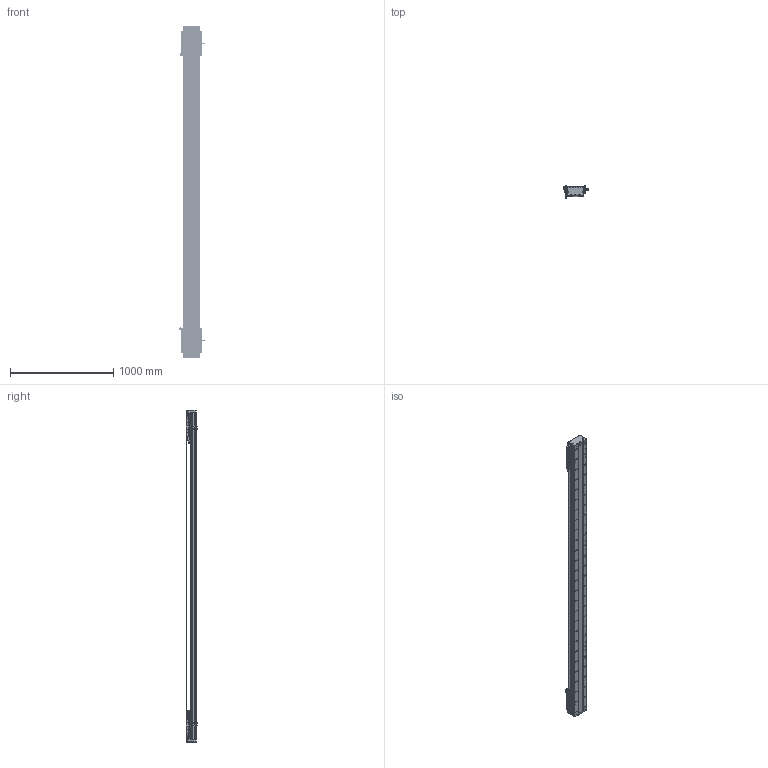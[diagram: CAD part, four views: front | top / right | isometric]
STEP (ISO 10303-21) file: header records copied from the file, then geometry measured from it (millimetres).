
FILE_DESCRIPTION (( 'STEP AP203' ), '1' );
FILE_NAME ('DA-C165-2-C3-T2600-C010-0.2 直线电机.STEP', '2023-06-13T09:15:22', ( '微软用户' ), ( '微软中国' ), 'SwSTEP 2.0', 'SolidWorks 2019', '' );
FILE_SCHEMA (( 'CONFIG_CONTROL_DESIGN' ));
Length unit declared in the file: millimetre
Products named in the file (22): 复件 DA165-GDLK-00 钢带拉块^复件 CU165钢带组件_DA-C165-C3-T-C010-0.2-N 直线电机; 复件 XD-U-02L 磁栅尺^DA-C165-C3-T-C010-0.2-N 直线电机_T; 葩璃 PM-Y45^DA-C165-C3-T-C010-0.2-N 眻盄萇儂; 葩璃 CKM01-W075-TRL^DA-C165-C3-T-C010-0.2-N 眻盄萇儂; 复件 CU165钢带组件^DA-C165-C3-T-C010-0.2-N 直线电机; 复件 DA165-GD-DG-H-00 端盖^复件 CU165钢带组件_DA-C165-C3-T-C010-0.2-N 直线电机; 珨极趙賑雄怢啣C3-wf; IU-CU165-L 菁釱絳寢; 复件 DA126-GYP-ZJ-00 中间光电感应片^DA-C165-C3-T-C010-0.2-N 直线电机; 葩璃 DA95-GT-T-00^IU-CU165-L 菁釱絳寢_T; 复件 DMA-010-0.2 读数头^DA-C165-C3-T-C010-0.2-N 直线电机; 复件 DA165-GDYK-00 钢带压块^复件 CU165钢带组件_DA-C165-C3-T-C010-0.2-N 直线电机; 复件 DA95-HXJ-00 缓冲橡胶^DA-C165-C3-T-C010-0.2-N 直线电机; 葩璃 CKM03-W075-C1C2-TP-3.0^DA-C165-C3-T-C010-0.2-N 眻盄萇儂; 葩璃 PM-T45^DA-C165-C3-T-C010-0.2-N 眻盄萇儂; 复件 DKW-HXJ-JY-00 缓冲橡胶^DA-C165-C3-T-C010-0.2-N 直线电机; 复件 CU165 底座^IU-CU165-L 底座导轨_L3180; 复件 DA165-GD-1860-002-00 钢带盖板^复件 CU165钢带组件_DA-C165-C3-T-C010-0.2-N 直线电机; 复件 66338-1000-006-00 光电感应块^DA-C165-C3-T-C010-0.2-N 直线电机; 复件 六角薄螺母 M3^DA-C165-C3-T-C010-0.2-N 直线电机_GB_FASTENER_NUT_STNAB M3-C; DA-C165-2-C3-T2600-C010-0.2 眻盄萇儂; 复件 DA165-GYP-00 光电感应片^DA-C165-C3-T-C010-0.2-N 直线电机
Assembly tree (45 placements, depth 3):
  DA-C165-2-C3-T2600-C010-0.2 眻盄萇儂
    IU-CU165-L 菁釱絳寢
      复件 CU165 底座^IU-CU165-L 底座导轨_L3180
      葩璃 DA95-GT-T-00^IU-CU165-L 菁釱絳寢_T  x4
    复件 XD-U-02L 磁栅尺^DA-C165-C3-T-C010-0.2-N 直线电机_T
    葩璃 PM-T45^DA-C165-C3-T-C010-0.2-N 眻盄萇儂  x4
    葩璃 CKM01-W075-TRL^DA-C165-C3-T-C010-0.2-N 眻盄萇儂
    复件 CU165钢带组件^DA-C165-C3-T-C010-0.2-N 直线电机
      复件 DA165-GD-DG-H-00 端盖^复件 CU165钢带组件_DA-C165-C3-T-C010-0.2-N 直线电机  x2
      复件 DA165-GDYK-00 钢带压块^复件 CU165钢带组件_DA-C165-C3-T-C010-0.2-N 直线电机  x2
      复件 DA165-GD-1860-002-00 钢带盖板^复件 CU165钢带组件_DA-C165-C3-T-C010-0.2-N 直线电机
      复件 DA165-GDLK-00 钢带拉块^复件 CU165钢带组件_DA-C165-C3-T-C010-0.2-N 直线电机  x2
    复件 DA95-HXJ-00 缓冲橡胶^DA-C165-C3-T-C010-0.2-N 直线电机  x4
    复件 DMA-010-0.2 读数头^DA-C165-C3-T-C010-0.2-N 直线电机  x2
    复件 DA165-GYP-00 光电感应片^DA-C165-C3-T-C010-0.2-N 直线电机  x2
    复件 66338-1000-006-00 光电感应块^DA-C165-C3-T-C010-0.2-N 直线电机
    葩璃 PM-Y45^DA-C165-C3-T-C010-0.2-N 眻盄萇儂
    复件 DA126-GYP-ZJ-00 中间光电感应片^DA-C165-C3-T-C010-0.2-N 直线电机
    葩璃 CKM03-W075-C1C2-TP-3.0^DA-C165-C3-T-C010-0.2-N 眻盄萇儂  x2
    复件 DKW-HXJ-JY-00 缓冲橡胶^DA-C165-C3-T-C010-0.2-N 直线电机  x2
    复件 六角薄螺母 M3^DA-C165-C3-T-C010-0.2-N 直线电机_GB_FASTENER_NUT_STNAB M3-C  x8
    珨极趙賑雄怢啣C3-wf  x2
Bounding box: 247.2 x 111.45 x 3220 mm (x, y, z)
Volume: 20093146.2 mm3; surface area: 5778739.5 mm2
Topology: 121 solids, 221 shells, 6865 faces, 19052 edges, 11912 vertices
Faces by surface type: cylinder 3758, plane 2039, cone 980, torus 80, sphere 8
Entity records: 163774 total; most frequent: CARTESIAN_POINT 45131, ORIENTED_EDGE 24688, DIRECTION 23804, EDGE_CURVE 12344, AXIS2_PLACEMENT_3D 9117, VERTEX_POINT 8066, EDGE_LOOP 5688, VECTOR 5570
